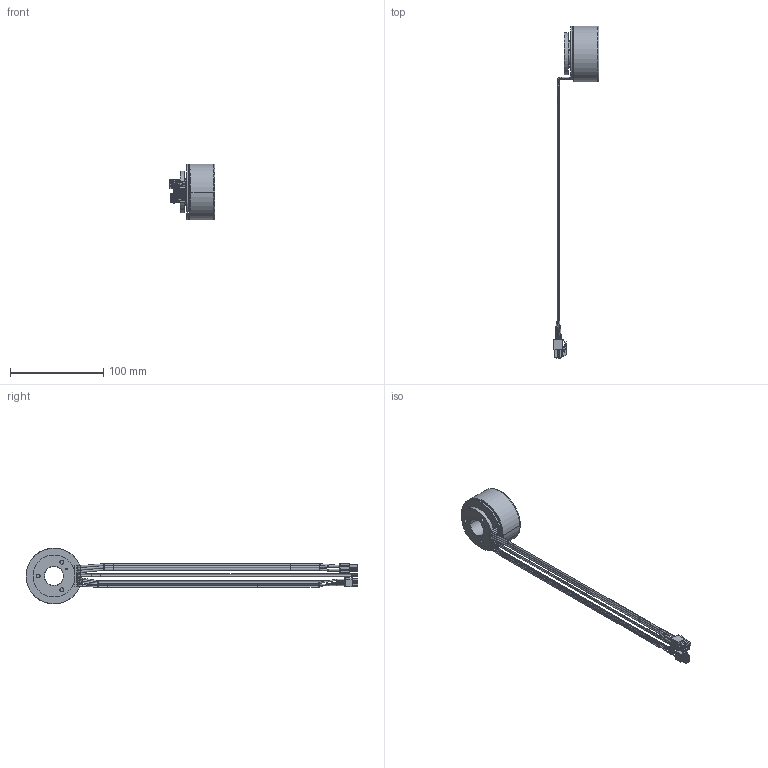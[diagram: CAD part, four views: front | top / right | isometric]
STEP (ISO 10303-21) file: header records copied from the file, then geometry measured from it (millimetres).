
FILE_DESCRIPTION((''),'2;1');
FILE_NAME('550153','2017-02-17T',('mmagpetk'),(''),'CREO PARAMETRIC BY PTC INC, 2016050','CREO PARAMETRIC BY PTC INC, 2016050','');
FILE_SCHEMA(('CONFIG_CONTROL_DESIGN'));
Length unit declared in the file: millimetre
Products named in the file (1): 550153
Bounding box: 49.3 x 356.1 x 60 mm (x, y, z)
Volume: 70861.1 mm3; surface area: 71422.7 mm2
Topology: 8 solids, 8 shells, 3369 faces, 9133 edges, 5692 vertices
Faces by surface type: plane 1583, cylinder 1341, torus 333, sphere 68, cone 44
Entity records: 178626 total; most frequent: CARTESIAN_POINT 41586, ORIENTED_EDGE 18258, DIRECTION 17750, PRESENTATION_STYLE_ASSIGNMENT 12174, STYLED_ITEM 9137, CURVE_STYLE 9129, EDGE_CURVE 9129, AXIS2_PLACEMENT_3D 6264
